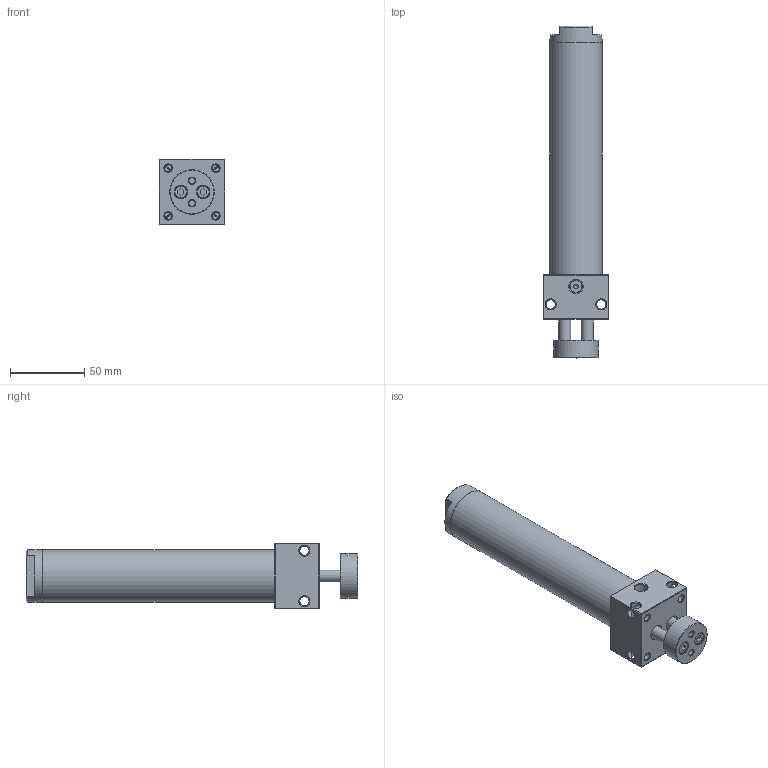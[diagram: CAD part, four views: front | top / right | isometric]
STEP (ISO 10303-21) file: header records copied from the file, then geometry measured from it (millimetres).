
FILE_DESCRIPTION((''),'2;1');
FILE_NAME('I:\3D電子目錄\氣缸\DBT\DBT\DBT30\DBT30x100.stp','2007-10-08T08:58:30',('Administrator'),(''),'Autodesk Inventor 2008','Autodesk Inventor 2008','');
FILE_SCHEMA(('AUTOMOTIVE_DESIGN { 1 0 10303 214 1 1 1 1 }'));
Length unit declared in the file: millimetre
Products named in the file (1): DBT30x100
Bounding box: 44 x 223 x 44 mm (x, y, z)
Volume: 120367.6 mm3; surface area: 58887.2 mm2
Topology: 5 solids, 5 shells, 167 faces, 388 edges, 234 vertices
Faces by surface type: plane 56, bspline 53, cone 37, cylinder 21
Full cylindrical faces by diameter (mm): 4.3 x1, 5 x1, 8 x3, 8.5 x1, 10 x1, 11 x1, 18 x1, 28.8 x2, 30 x2, 30.8 x2, 32 x2, 32.2 x2, 35 x2
Entity records: 5064 total; most frequent: CARTESIAN_POINT 1888, DIRECTION 604, ORIENTED_EDGE 538, EDGE_LOOP 298, EDGE_CURVE 269, AXIS2_PLACEMENT_3D 256, VERTEX_POINT 207, FACE_OUTER_BOUND 167
